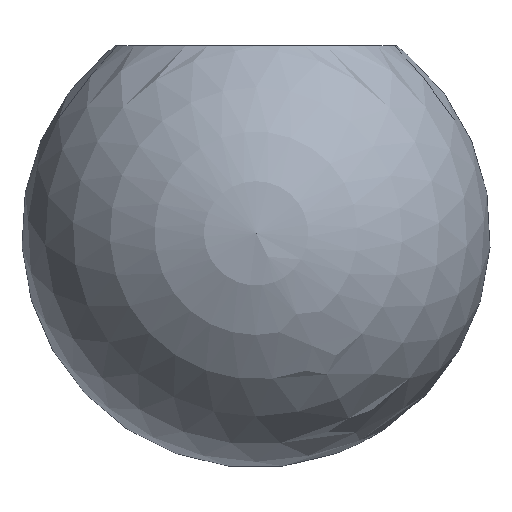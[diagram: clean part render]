
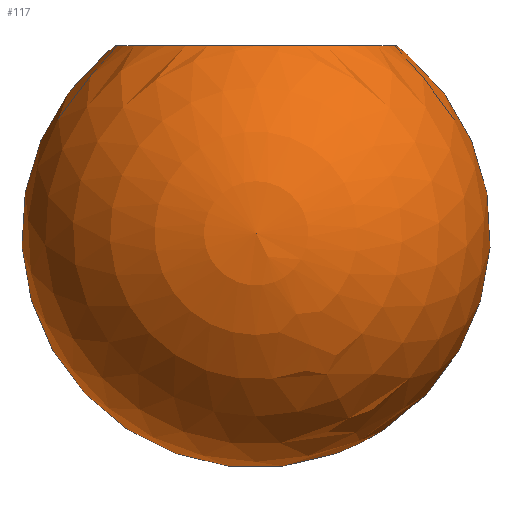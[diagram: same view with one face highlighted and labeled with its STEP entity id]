
A CAD part, left-side view. The second image highlights one B-rep face of the part: STEP entity #117.
In plain terms, the highlighted spherical face has radius 12.5 mm.
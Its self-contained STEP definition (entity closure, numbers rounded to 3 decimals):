
#22 = CARTESIAN_POINT ( 'NONE',  ( 0., 0., 0. ) ) ;
#38 = AXIS2_PLACEMENT_3D ( 'NONE', #67, #150, #240 ) ;
#67 = CARTESIAN_POINT ( 'NONE',  ( 0., 0., -10. ) ) ;
#110 = DIRECTION ( 'NONE',  ( 0., 0., 1. ) ) ;
#113 = EDGE_CURVE ( 'NONE', #139, #139, #246, .T. ) ;
#117 = ADVANCED_FACE ( 'NONE', ( #277 ), #259, .T. ) ;
#139 = VERTEX_POINT ( 'NONE', #226 ) ;
#150 = DIRECTION ( 'NONE',  ( -1., 0., 0. ) ) ;
#155 = AXIS2_PLACEMENT_3D ( 'NONE', #22, #110, #190 ) ;
#165 = EDGE_LOOP ( 'NONE', ( #203 ) ) ;
#190 = DIRECTION ( 'NONE',  ( 1., 0., 0. ) ) ;
#203 = ORIENTED_EDGE ( 'NONE', *, *, #113, .F. ) ;
#226 = CARTESIAN_POINT ( 'NONE',  ( 7.5, 0., 0. ) ) ;
#240 = DIRECTION ( 'NONE',  ( 0., 1., 0. ) ) ;
#246 = CIRCLE ( 'NONE', #155, 7.5 ) ;
#259 = SPHERICAL_SURFACE ( 'NONE', #38, 12.5 ) ;
#277 = FACE_OUTER_BOUND ( 'NONE', #165, .T. ) ;
